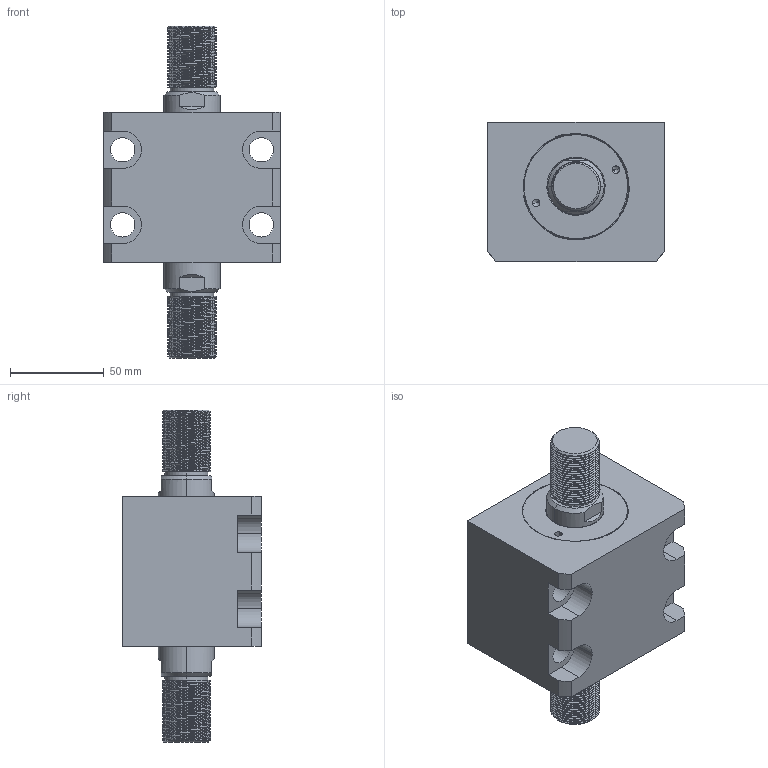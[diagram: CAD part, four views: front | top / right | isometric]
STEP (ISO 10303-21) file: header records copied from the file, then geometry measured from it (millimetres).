
FILE_DESCRIPTION (( 'STEP AP203' ), '1' );
FILE_NAME ('CHTB-LWM50-5W.STEP', '2018-05-22T08:59:59', ( '' ), ( '' ), 'SwSTEP 2.0', 'SolidWorks 2015', '' );
FILE_SCHEMA (( 'CONFIG_CONTROL_DESIGN' ));
Length unit declared in the file: millimetre
Products named in the file (4): 活塞杆LW50-5W; CHTM-SDMA50QG; 掛极LWM50-5N; CHTB-LWM50-5W
Assembly tree (3 placements, depth 2):
  CHTB-LWM50-5W
    掛极LWM50-5N
    活塞杆LW50-5W
    CHTM-SDMA50QG
Bounding box: 94 x 74 x 177 mm (x, y, z)
Volume: 546673.6 mm3; surface area: 101970.8 mm2
Topology: 3 solids, 3 shells, 291 faces, 806 edges, 537 vertices
Faces by surface type: cylinder 186, plane 53, cone 18, bspline 18, torus 16
Entity records: 18815 total; most frequent: CARTESIAN_POINT 11711, ORIENTED_EDGE 1604, DIRECTION 1211, EDGE_CURVE 802, VERTEX_POINT 537, AXIS2_PLACEMENT_3D 468, EDGE_LOOP 327, FACE_OUTER_BOUND 291
